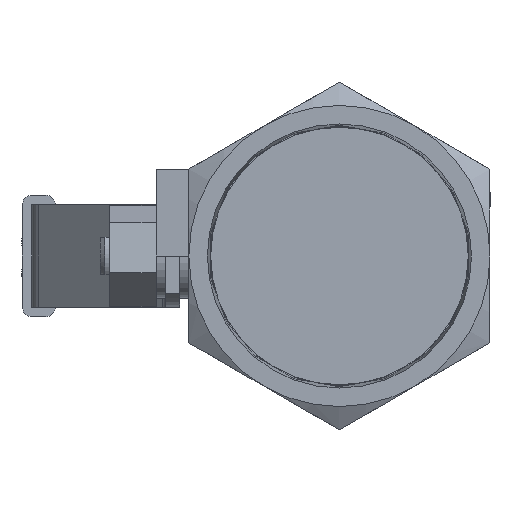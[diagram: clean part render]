
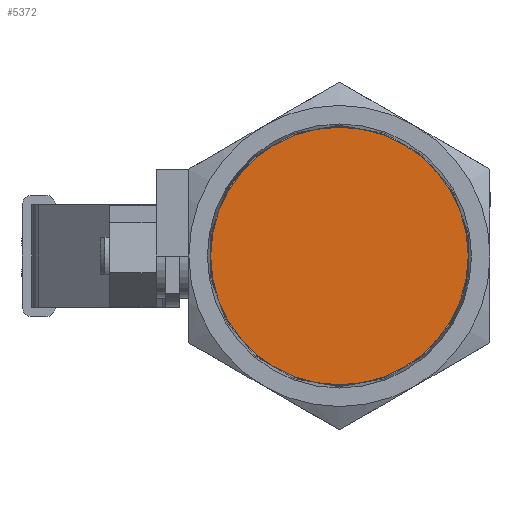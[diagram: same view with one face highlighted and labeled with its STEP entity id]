
A CAD part, left-side view. The second image highlights one B-rep face of the part: STEP entity #5372.
In plain terms, the highlighted planar face has unit normal (-1, 0, 0).
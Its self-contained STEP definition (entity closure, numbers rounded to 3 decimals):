
#163=PLANE('',#5695);
#373=FACE_OUTER_BOUND('',#668,.T.);
#668=EDGE_LOOP('',(#3517));
#2120=CIRCLE('',#5693,27.584);
#2244=VERTEX_POINT('',#7493);
#2746=EDGE_CURVE('',#2244,#2244,#2120,.T.);
#3517=ORIENTED_EDGE('',*,*,#2746,.T.);
#5372=ADVANCED_FACE('',(#373),#163,.T.);
#5693=AXIS2_PLACEMENT_3D('',#7494,#6115,#6116);
#5695=AXIS2_PLACEMENT_3D('',#7498,#6120,#6121);
#6115=DIRECTION('center_axis',(-1.,0.,0.));
#6116=DIRECTION('ref_axis',(0.,0.,
1.));
#6120=DIRECTION('center_axis',(-1.,0.,0.));
#6121=DIRECTION('ref_axis',(0.,0.,
1.));
#7493=CARTESIAN_POINT('',(-93.19,-32.355,-27.584));
#7494=CARTESIAN_POINT('Origin',(-93.19,-32.355,0.));
#7498=CARTESIAN_POINT('Origin',(-93.19,-32.355,0.));
